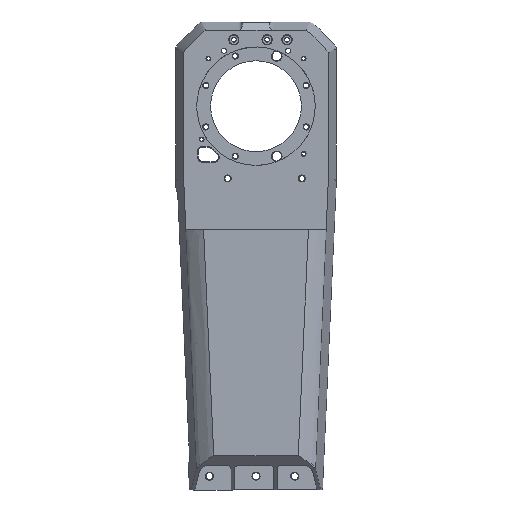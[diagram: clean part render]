
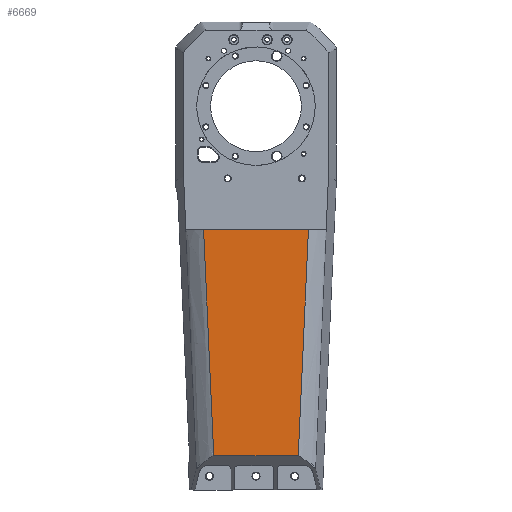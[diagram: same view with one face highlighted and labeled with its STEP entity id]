
A CAD part, left-side view. The second image highlights one B-rep face of the part: STEP entity #6669.
In plain terms, the highlighted planar face has unit normal (-1, 0, 0).
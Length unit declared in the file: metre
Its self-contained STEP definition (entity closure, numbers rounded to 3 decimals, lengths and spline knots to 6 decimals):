
#266=LINE('',#11313,#757);
#267=LINE('',#11315,#758);
#268=LINE('',#11317,#759);
#269=LINE('',#11319,#760);
#757=VECTOR('',#8717,1.);
#758=VECTOR('',#8720,1.);
#759=VECTOR('',#8721,1.);
#760=VECTOR('',#8722,1.);
#1072=PLANE('',#7298);
#2270=ORIENTED_EDGE('',*,*,#3963,.F.);
#2271=ORIENTED_EDGE('',*,*,#3962,.F.);
#2272=ORIENTED_EDGE('',*,*,#3964,.F.);
#2273=ORIENTED_EDGE('',*,*,#3965,.T.);
#3962=EDGE_CURVE('',#5625,#5622,#266,.T.);
#3963=EDGE_CURVE('',#5622,#5626,#267,.T.);
#3964=EDGE_CURVE('',#5627,#5625,#268,.T.);
#3965=EDGE_CURVE('',#5627,#5626,#269,.T.);
#4991=EDGE_LOOP('',(#2270,#2271,#2272,#2273));
#5622=VERTEX_POINT('',#11297);
#5625=VERTEX_POINT('',#11312);
#5626=VERTEX_POINT('',#11316);
#5627=VERTEX_POINT('',#11318);
#6174=FACE_BOUND('',#4991,.T.);
#6669=ADVANCED_FACE('',(#6174),#1072,.T.);
#7298=AXIS2_PLACEMENT_3D('',#11314,#8718,#8719);
#8717=DIRECTION('',(0.,-1.,0.));
#8718=DIRECTION('',(-1.,0.,0.));
#8719=DIRECTION('',(0.,1.,0.));
#8720=DIRECTION('',(0.,0.045,-0.999));
#8721=DIRECTION('',(0.,0.045,0.999));
#8722=DIRECTION('',(0.,-1.,0.));
#11297=CARTESIAN_POINT('',(-0.11,-0.047313,0.235));
#11312=CARTESIAN_POINT('',(-0.11,0.047313,0.235));
#11313=CARTESIAN_POINT('',(-0.11,0.047313,0.235));
#11314=CARTESIAN_POINT('',(-0.11,0.,0.));
#11315=CARTESIAN_POINT('',(-0.11,-0.047313,0.235));
#11316=CARTESIAN_POINT('',(-0.11,-0.038164,0.031));
#11317=CARTESIAN_POINT('',(-0.11,0.038164,0.031));
#11318=CARTESIAN_POINT('',(-0.11,0.038164,0.031));
#11319=CARTESIAN_POINT('',(-0.11,0.038164,0.031));
